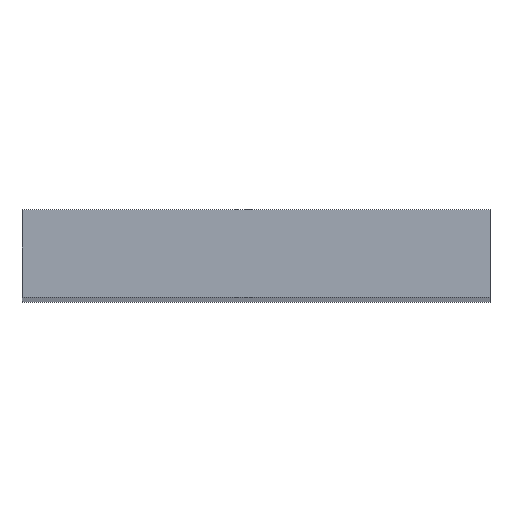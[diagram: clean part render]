
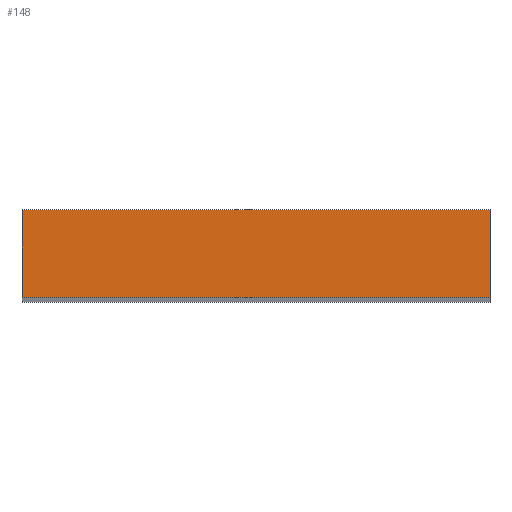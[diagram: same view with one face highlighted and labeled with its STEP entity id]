
A CAD part, top view. The second image highlights one B-rep face of the part: STEP entity #148.
In plain terms, the highlighted planar face has unit normal (0, 0, 1).
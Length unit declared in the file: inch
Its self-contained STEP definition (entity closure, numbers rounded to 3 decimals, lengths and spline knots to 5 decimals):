
#1 = LINE ( 'NONE', #163, #79 ) ;
#2 = DIRECTION ( 'NONE',  ( 1., 0., 0. ) ) ;
#12 = CARTESIAN_POINT ( 'NONE',  ( 0.25, 0.09375, 1.5 ) ) ;
#16 = ORIENTED_EDGE ( 'NONE', *, *, #161, .T. ) ;
#20 = ORIENTED_EDGE ( 'NONE', *, *, #93, .F. ) ;
#26 = LINE ( 'NONE', #41, #50 ) ;
#31 = CARTESIAN_POINT ( 'NONE',  ( -0.25, 0.09375, 1.5 ) ) ;
#32 = EDGE_LOOP ( 'NONE', ( #16, #20, #109, #36 ) ) ;
#34 = VERTEX_POINT ( 'NONE', #80 ) ;
#36 = ORIENTED_EDGE ( 'NONE', *, *, #126, .T. ) ;
#41 = CARTESIAN_POINT ( 'NONE',  ( 0.25, 0.09375, 1.5 ) ) ;
#44 = VECTOR ( 'NONE', #45, 39.37008 ) ;
#45 = DIRECTION ( 'NONE',  ( 1., 0., 0. ) ) ;
#50 = VECTOR ( 'NONE', #176, 39.37008 ) ;
#60 = CARTESIAN_POINT ( 'NONE',  ( -0.25, 0.09375, 1.5 ) ) ;
#72 = DIRECTION ( 'NONE',  ( 0., 0., -1. ) ) ;
#75 = LINE ( 'NONE', #31, #170 ) ;
#79 = VECTOR ( 'NONE', #116, 39.37008 ) ;
#80 = CARTESIAN_POINT ( 'NONE',  ( -0.25, 0., 1.5 ) ) ;
#88 = FACE_OUTER_BOUND ( 'NONE', #32, .T. ) ;
#89 = PLANE ( 'NONE',  #178 ) ;
#93 = EDGE_CURVE ( 'NONE', #134, #167, #26, .T. ) ;
#109 = ORIENTED_EDGE ( 'NONE', *, *, #166, .F. ) ;
#116 = DIRECTION ( 'NONE',  ( 0., -1., 0. ) ) ;
#126 = EDGE_CURVE ( 'NONE', #179, #34, #1, .T. ) ;
#134 = VERTEX_POINT ( 'NONE', #12 ) ;
#148 = ADVANCED_FACE ( 'NONE', ( #88 ), #89, .F. ) ;
#149 = CARTESIAN_POINT ( 'NONE',  ( 0.25, 0., 1.5 ) ) ;
#160 = CARTESIAN_POINT ( 'NONE',  ( -0.25, 0.09375, 1.5 ) ) ;
#161 = EDGE_CURVE ( 'NONE', #34, #167, #174, .T. ) ;
#163 = CARTESIAN_POINT ( 'NONE',  ( -0.25, 0.09375, 1.5 ) ) ;
#166 = EDGE_CURVE ( 'NONE', #179, #134, #75, .T. ) ;
#167 = VERTEX_POINT ( 'NONE', #149 ) ;
#170 = VECTOR ( 'NONE', #2, 39.37008 ) ;
#174 = LINE ( 'NONE', #175, #44 ) ;
#175 = CARTESIAN_POINT ( 'NONE',  ( -0.25, 0., 1.5 ) ) ;
#176 = DIRECTION ( 'NONE',  ( 0., -1., 0. ) ) ;
#177 = DIRECTION ( 'NONE',  ( -1., 0., 0. ) ) ;
#178 = AXIS2_PLACEMENT_3D ( 'NONE', #60, #72, #177 ) ;
#179 = VERTEX_POINT ( 'NONE', #160 ) ;
